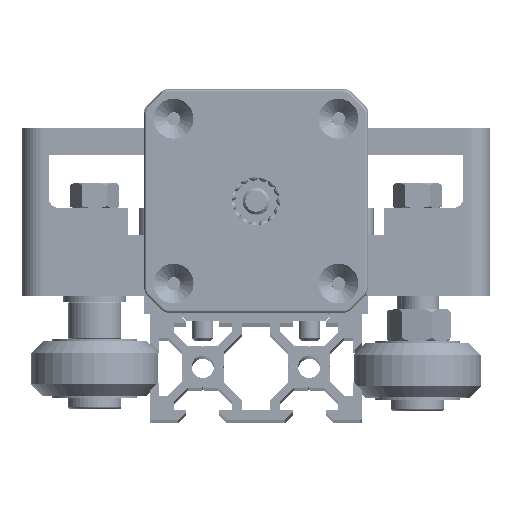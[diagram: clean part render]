
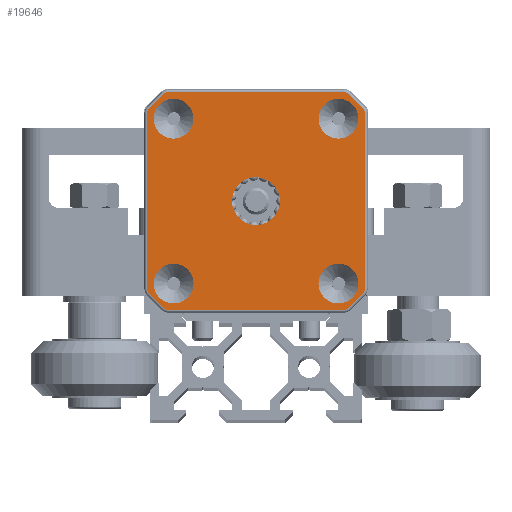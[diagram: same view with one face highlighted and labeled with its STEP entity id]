
A CAD part, top view. The second image highlights one B-rep face of the part: STEP entity #19646.
In plain terms, the highlighted planar face has unit normal (0, 0, 1).
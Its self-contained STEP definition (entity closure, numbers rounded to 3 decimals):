
#1408=FACE_BOUND('',#3317,.T.);
#1409=FACE_BOUND('',#3318,.T.);
#1410=FACE_BOUND('',#3319,.T.);
#1411=FACE_BOUND('',#3320,.T.);
#1412=FACE_BOUND('',#3321,.T.);
#1701=PLANE('',#21567);
#2206=FACE_OUTER_BOUND('',#3316,.T.);
#3316=EDGE_LOOP('',(#14341,#14342,#14343,#14344,#14345,#14346,#14347,#14348,
#14349,#14350,#14351,#14352,#14353,#14354,#14355,#14356));
#3317=EDGE_LOOP('',(#14357));
#3318=EDGE_LOOP('',(#14358));
#3319=EDGE_LOOP('',(#14359));
#3320=EDGE_LOOP('',(#14360));
#3321=EDGE_LOOP('',(#14361));
#4805=LINE('',#30323,#6229);
#4806=LINE('',#30327,#6230);
#4807=LINE('',#30331,#6231);
#4808=LINE('',#30335,#6232);
#4809=LINE('',#30339,#6233);
#4810=LINE('',#30343,#6234);
#4811=LINE('',#30347,#6235);
#4812=LINE('',#30351,#6236);
#6229=VECTOR('',#24372,1000.);
#6230=VECTOR('',#24375,1000.);
#6231=VECTOR('',#24378,1000.);
#6232=VECTOR('',#24381,1000.);
#6233=VECTOR('',#24384,1000.);
#6234=VECTOR('',#24387,1000.);
#6235=VECTOR('',#24390,1000.);
#6236=VECTOR('',#24393,1000.);
#7253=CIRCLE('',#21354,4.5);
#7255=CIRCLE('',#21357,3.75);
#7257=CIRCLE('',#21360,3.75);
#7259=CIRCLE('',#21363,3.75);
#7261=CIRCLE('',#21366,3.75);
#7374=CIRCLE('',#21568,1.5);
#7375=CIRCLE('',#21569,1.5);
#7376=CIRCLE('',#21570,1.5);
#7377=CIRCLE('',#21571,1.5);
#7378=CIRCLE('',#21572,1.5);
#7379=CIRCLE('',#21573,1.5);
#7380=CIRCLE('',#21574,1.5);
#7381=CIRCLE('',#21575,1.5);
#8233=VERTEX_POINT('',#29795);
#8235=VERTEX_POINT('',#29801);
#8237=VERTEX_POINT('',#29807);
#8239=VERTEX_POINT('',#29813);
#8241=VERTEX_POINT('',#29819);
#8405=VERTEX_POINT('',#30321);
#8406=VERTEX_POINT('',#30322);
#8407=VERTEX_POINT('',#30324);
#8408=VERTEX_POINT('',#30326);
#8409=VERTEX_POINT('',#30328);
#8410=VERTEX_POINT('',#30330);
#8411=VERTEX_POINT('',#30332);
#8412=VERTEX_POINT('',#30334);
#8413=VERTEX_POINT('',#30336);
#8414=VERTEX_POINT('',#30338);
#8415=VERTEX_POINT('',#30340);
#8416=VERTEX_POINT('',#30342);
#8417=VERTEX_POINT('',#30344);
#8418=VERTEX_POINT('',#30346);
#8419=VERTEX_POINT('',#30348);
#8420=VERTEX_POINT('',#30350);
#10399=EDGE_CURVE('',#8233,#8233,#7253,.T.);
#10402=EDGE_CURVE('',#8235,#8235,#7255,.T.);
#10405=EDGE_CURVE('',#8237,#8237,#7257,.T.);
#10408=EDGE_CURVE('',#8239,#8239,#7259,.T.);
#10411=EDGE_CURVE('',#8241,#8241,#7261,.T.);
#10659=EDGE_CURVE('',#8405,#8406,#4805,.T.);
#10660=EDGE_CURVE('',#8406,#8407,#7374,.T.);
#10661=EDGE_CURVE('',#8407,#8408,#4806,.T.);
#10662=EDGE_CURVE('',#8408,#8409,#7375,.T.);
#10663=EDGE_CURVE('',#8409,#8410,#4807,.T.);
#10664=EDGE_CURVE('',#8410,#8411,#7376,.T.);
#10665=EDGE_CURVE('',#8411,#8412,#4808,.T.);
#10666=EDGE_CURVE('',#8412,#8413,#7377,.T.);
#10667=EDGE_CURVE('',#8413,#8414,#4809,.T.);
#10668=EDGE_CURVE('',#8414,#8415,#7378,.T.);
#10669=EDGE_CURVE('',#8415,#8416,#4810,.T.);
#10670=EDGE_CURVE('',#8416,#8417,#7379,.T.);
#10671=EDGE_CURVE('',#8417,#8418,#4811,.T.);
#10672=EDGE_CURVE('',#8418,#8419,#7380,.T.);
#10673=EDGE_CURVE('',#8419,#8420,#4812,.T.);
#10674=EDGE_CURVE('',#8420,#8405,#7381,.T.);
#14341=ORIENTED_EDGE('',*,*,#10659,.T.);
#14342=ORIENTED_EDGE('',*,*,#10660,.T.);
#14343=ORIENTED_EDGE('',*,*,#10661,.T.);
#14344=ORIENTED_EDGE('',*,*,#10662,.T.);
#14345=ORIENTED_EDGE('',*,*,#10663,.T.);
#14346=ORIENTED_EDGE('',*,*,#10664,.T.);
#14347=ORIENTED_EDGE('',*,*,#10665,.T.);
#14348=ORIENTED_EDGE('',*,*,#10666,.T.);
#14349=ORIENTED_EDGE('',*,*,#10667,.T.);
#14350=ORIENTED_EDGE('',*,*,#10668,.T.);
#14351=ORIENTED_EDGE('',*,*,#10669,.T.);
#14352=ORIENTED_EDGE('',*,*,#10670,.T.);
#14353=ORIENTED_EDGE('',*,*,#10671,.T.);
#14354=ORIENTED_EDGE('',*,*,#10672,.T.);
#14355=ORIENTED_EDGE('',*,*,#10673,.T.);
#14356=ORIENTED_EDGE('',*,*,#10674,.T.);
#14357=ORIENTED_EDGE('',*,*,#10399,.T.);
#14358=ORIENTED_EDGE('',*,*,#10411,.T.);
#14359=ORIENTED_EDGE('',*,*,#10408,.T.);
#14360=ORIENTED_EDGE('',*,*,#10405,.T.);
#14361=ORIENTED_EDGE('',*,*,#10402,.T.);
#19646=ADVANCED_FACE('',(#2206,#1408,#1409,#1410,#1411,#1412),#1701,.F.);
#21354=AXIS2_PLACEMENT_3D('',#29797,#23805,#23806);
#21357=AXIS2_PLACEMENT_3D('',#29803,#23812,#23813);
#21360=AXIS2_PLACEMENT_3D('',#29809,#23819,#23820);
#21363=AXIS2_PLACEMENT_3D('',#29815,#23826,#23827);
#21366=AXIS2_PLACEMENT_3D('',#29821,#23833,#23834);
#21567=AXIS2_PLACEMENT_3D('',#30320,#24370,#24371);
#21568=AXIS2_PLACEMENT_3D('',#30325,#24373,#24374);
#21569=AXIS2_PLACEMENT_3D('',#30329,#24376,#24377);
#21570=AXIS2_PLACEMENT_3D('',#30333,#24379,#24380);
#21571=AXIS2_PLACEMENT_3D('',#30337,#24382,#24383);
#21572=AXIS2_PLACEMENT_3D('',#30341,#24385,#24386);
#21573=AXIS2_PLACEMENT_3D('',#30345,#24388,#24389);
#21574=AXIS2_PLACEMENT_3D('',#30349,#24391,#24392);
#21575=AXIS2_PLACEMENT_3D('',#30352,#24394,#24395);
#23805=DIRECTION('center_axis',(0.,0.,-1.));
#23806=DIRECTION('ref_axis',(0.,1.,0.));
#23812=DIRECTION('center_axis',(0.,0.,-1.));
#23813=DIRECTION('ref_axis',(0.,1.,0.));
#23819=DIRECTION('center_axis',(0.,0.,-1.));
#23820=DIRECTION('ref_axis',(0.,1.,0.));
#23826=DIRECTION('center_axis',(0.,0.,-1.));
#23827=DIRECTION('ref_axis',(0.,1.,0.));
#23833=DIRECTION('center_axis',(0.,0.,-1.));
#23834=DIRECTION('ref_axis',(0.,1.,0.));
#24370=DIRECTION('center_axis',(0.,0.,-1.));
#24371=DIRECTION('ref_axis',(0.,-1.,0.));
#24372=DIRECTION('',(-1.,0.,0.));
#24373=DIRECTION('center_axis',(0.,0.,1.));
#24374=DIRECTION('ref_axis',(0.,1.,0.));
#24375=DIRECTION('',(-0.707,-0.707,0.));
#24376=DIRECTION('center_axis',(0.,0.,1.));
#24377=DIRECTION('ref_axis',(0.,1.,0.));
#24378=DIRECTION('',(0.,-1.,0.));
#24379=DIRECTION('center_axis',(0.,0.,1.));
#24380=DIRECTION('ref_axis',(0.,1.,0.));
#24381=DIRECTION('',(0.707,-0.707,0.));
#24382=DIRECTION('center_axis',(0.,0.,1.));
#24383=DIRECTION('ref_axis',(0.,1.,0.));
#24384=DIRECTION('',(1.,0.,0.));
#24385=DIRECTION('center_axis',(0.,0.,1.));
#24386=DIRECTION('ref_axis',(0.,1.,0.));
#24387=DIRECTION('',(0.707,0.707,0.));
#24388=DIRECTION('center_axis',(0.,0.,1.));
#24389=DIRECTION('ref_axis',(0.,1.,0.));
#24390=DIRECTION('',(0.,1.,0.));
#24391=DIRECTION('center_axis',(0.,0.,1.));
#24392=DIRECTION('ref_axis',(0.,1.,0.));
#24393=DIRECTION('',(-0.707,0.707,0.));
#24394=DIRECTION('center_axis',(0.,0.,1.));
#24395=DIRECTION('ref_axis',(0.,1.,0.));
#29795=CARTESIAN_POINT('',(-4.7,-10.5,1125.));
#29797=CARTESIAN_POINT('Origin',(-4.7,-15.,1125.));
#29801=CARTESIAN_POINT('',(-20.2,-26.75,1125.));
#29803=CARTESIAN_POINT('Origin',(-20.2,-30.5,1125.));
#29807=CARTESIAN_POINT('',(10.8,-26.75,1125.));
#29809=CARTESIAN_POINT('Origin',(10.8,-30.5,1125.));
#29813=CARTESIAN_POINT('',(10.8,4.25,1125.));
#29815=CARTESIAN_POINT('Origin',(10.8,0.5,1125.));
#29819=CARTESIAN_POINT('',(-20.2,4.25,1125.));
#29821=CARTESIAN_POINT('Origin',(-20.2,0.5,1125.));
#30320=CARTESIAN_POINT('Origin',(-4.7,-15.,1125.));
#30321=CARTESIAN_POINT('',(11.672,5.5,1125.));
#30322=CARTESIAN_POINT('',(-21.072,5.5,1125.));
#30323=CARTESIAN_POINT('',(-4.7,5.5,1125.));
#30324=CARTESIAN_POINT('',(-22.132,5.061,1125.));
#30325=CARTESIAN_POINT('Origin',(-21.072,4.,1125.));
#30326=CARTESIAN_POINT('',(-24.761,2.432,1125.));
#30327=CARTESIAN_POINT('',(-23.446,3.746,1125.));
#30328=CARTESIAN_POINT('',(-25.2,1.372,1125.));
#30329=CARTESIAN_POINT('Origin',(-23.7,1.372,1125.));
#30330=CARTESIAN_POINT('',(-25.2,-31.372,1125.));
#30331=CARTESIAN_POINT('',(-25.2,-31.372,1125.));
#30332=CARTESIAN_POINT('',(-24.761,-32.432,1125.));
#30333=CARTESIAN_POINT('Origin',(-23.7,-31.372,1125.));
#30334=CARTESIAN_POINT('',(-22.132,-35.061,1125.));
#30335=CARTESIAN_POINT('',(-22.132,-35.061,1125.));
#30336=CARTESIAN_POINT('',(-21.072,-35.5,1125.));
#30337=CARTESIAN_POINT('Origin',(-21.072,-34.,1125.));
#30338=CARTESIAN_POINT('',(11.672,-35.5,1125.));
#30339=CARTESIAN_POINT('',(11.672,-35.5,1125.));
#30340=CARTESIAN_POINT('',(12.732,-35.061,1125.));
#30341=CARTESIAN_POINT('Origin',(11.672,-34.,1125.));
#30342=CARTESIAN_POINT('',(15.361,-32.432,1125.));
#30343=CARTESIAN_POINT('',(15.361,-32.432,1125.));
#30344=CARTESIAN_POINT('',(15.8,-31.372,1125.));
#30345=CARTESIAN_POINT('Origin',(14.3,-31.372,1125.));
#30346=CARTESIAN_POINT('',(15.8,1.372,1125.));
#30347=CARTESIAN_POINT('',(15.8,-15.,1125.));
#30348=CARTESIAN_POINT('',(15.361,2.432,1125.));
#30349=CARTESIAN_POINT('Origin',(14.3,1.372,1125.));
#30350=CARTESIAN_POINT('',(12.732,5.061,1125.));
#30351=CARTESIAN_POINT('',(14.046,3.746,1125.));
#30352=CARTESIAN_POINT('Origin',(11.672,4.,1125.));
